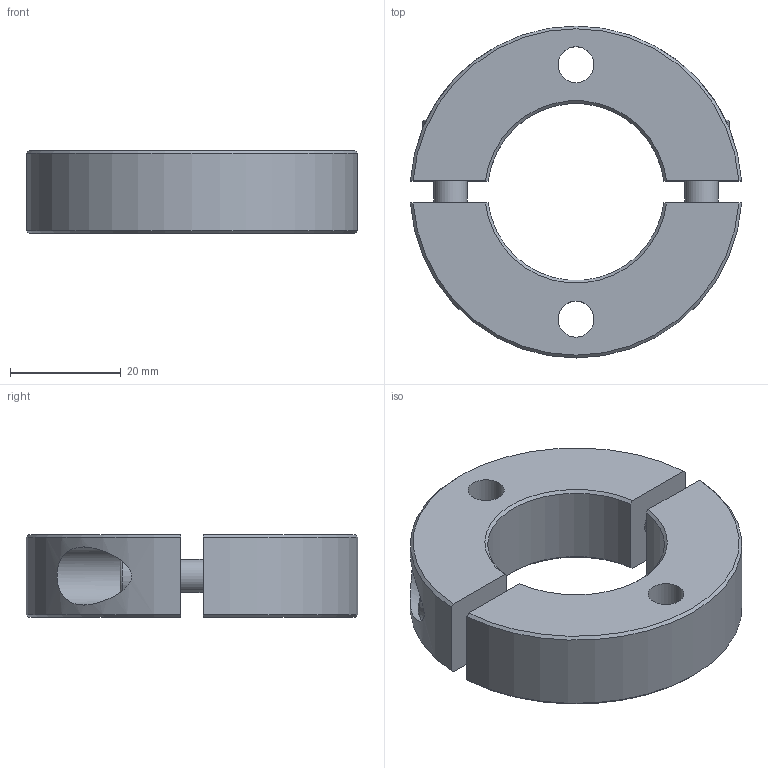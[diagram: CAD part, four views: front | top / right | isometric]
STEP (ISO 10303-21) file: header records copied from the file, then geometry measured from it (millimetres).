
FILE_DESCRIPTION( ( 'STEP AP203' ), '1' );
FILE_NAME( 'C:/Temp/Ganter_Step_05_03_2020/data/3_2/gn7072_2/Split Stainless Steel-Set collar GN 7072.2-60-B32-NI-A.stp', '2020-03-13T05:40:53', ( 'License CC BY-ND 4.0' ), ( 'CADENAS' ), ' ', 'PARTsolutions', ' ' );
FILE_SCHEMA( ( 'CONFIG_CONTROL_DESIGN' ) );
Length unit declared in the file: millimetre
Products named in the file (1): _Split Stainless Steel-Set collar GN 7072.2-60-B32-NI-A
Bounding box: 59.87 x 60 x 15 mm (x, y, z)
Volume: 26444 mm3; surface area: 10670.9 mm2
Topology: 1 solids, 1 shells, 52 faces, 124 edges, 84 vertices
Faces by surface type: plane 28, cylinder 14, cone 8, torus 2
Full cylindrical faces by diameter (mm): 6 x2, 6.4 x2, 6.5 x2, 10 x2, 10.5 x2
Entity records: 1633 total; most frequent: CARTESIAN_POINT 448, DIRECTION 230, ORIENTED_EDGE 212, EDGE_CURVE 106, AXIS2_PLACEMENT_3D 89, EDGE_LOOP 80, VERTEX_POINT 78, FACE_OUTER_BOUND 64
